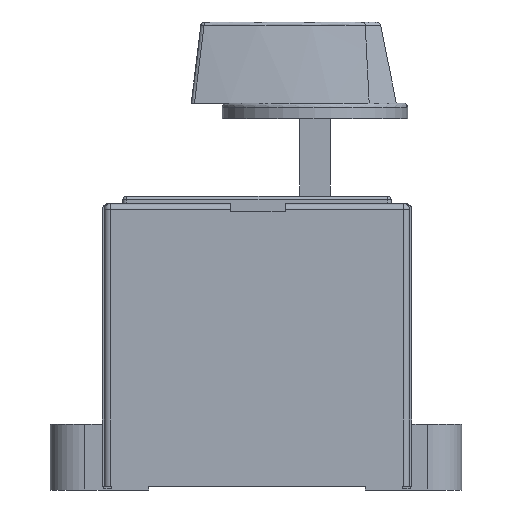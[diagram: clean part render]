
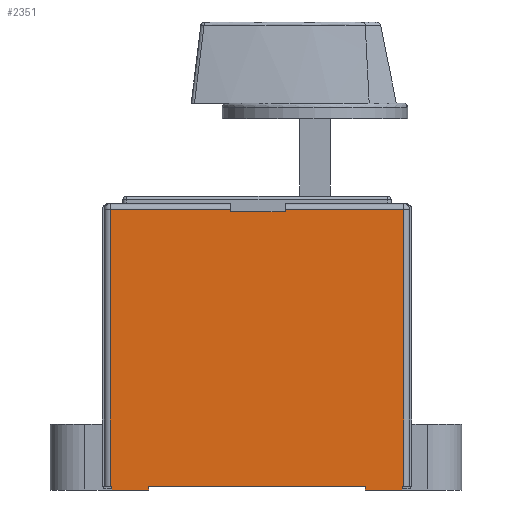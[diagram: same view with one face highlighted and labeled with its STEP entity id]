
A CAD part, left-side view. The second image highlights one B-rep face of the part: STEP entity #2351.
In plain terms, the highlighted planar face has unit normal (-1, 0, 0).
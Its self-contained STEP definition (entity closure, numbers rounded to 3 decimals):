
#273=PLANE('',#7907);
#747=LINE('',#11157,#1499);
#796=LINE('',#11274,#1548);
#798=LINE('',#11280,#1550);
#877=LINE('',#11629,#1629);
#894=LINE('',#11716,#1646);
#938=LINE('',#11830,#1690);
#943=LINE('',#11842,#1695);
#945=LINE('',#11845,#1697);
#951=LINE('',#11858,#1703);
#1120=LINE('',#12202,#1872);
#1126=LINE('',#12213,#1878);
#1127=LINE('',#12217,#1879);
#1128=LINE('',#12219,#1880);
#1129=LINE('',#12221,#1881);
#1130=LINE('',#12222,#1882);
#1131=LINE('',#12223,#1883);
#1499=VECTOR('',#8836,1.);
#1548=VECTOR('',#8921,1.);
#1550=VECTOR('',#8927,1.);
#1629=VECTOR('',#9244,1.);
#1646=VECTOR('',#9361,1.);
#1690=VECTOR('',#9479,1.);
#1695=VECTOR('',#9486,1.);
#1697=VECTOR('',#9490,1.);
#1703=VECTOR('',#9498,1.);
#1872=VECTOR('',#9797,1.);
#1878=VECTOR('',#9809,1.);
#1879=VECTOR('',#9814,1.);
#1880=VECTOR('',#9815,1.);
#1881=VECTOR('',#9816,1.);
#1882=VECTOR('',#9817,1.);
#1883=VECTOR('',#9818,1.);
#2351=ADVANCED_FACE('',(#2728),#273,.F.);
#2728=FACE_OUTER_BOUND('',#3177,.T.);
#3177=EDGE_LOOP('',(#4827,#4828,#4829,#4830,#4831,#4832,#4833,#4834,#4835,
#4836,#4837,#4838,#4839,#4840,#4841,#4842));
#4827=ORIENTED_EDGE('',*,*,#6939,.F.);
#4828=ORIENTED_EDGE('',*,*,#6682,.T.);
#4829=ORIENTED_EDGE('',*,*,#6484,.T.);
#4830=ORIENTED_EDGE('',*,*,#6428,.F.);
#4831=ORIENTED_EDGE('',*,*,#6487,.T.);
#4832=ORIENTED_EDGE('',*,*,#6639,.T.);
#4833=ORIENTED_EDGE('',*,*,#6941,.T.);
#4834=ORIENTED_EDGE('',*,*,#6942,.T.);
#4835=ORIENTED_EDGE('',*,*,#6943,.F.);
#4836=ORIENTED_EDGE('',*,*,#6738,.F.);
#4837=ORIENTED_EDGE('',*,*,#6743,.T.);
#4838=ORIENTED_EDGE('',*,*,#6944,.T.);
#4839=ORIENTED_EDGE('',*,*,#6751,.F.);
#4840=ORIENTED_EDGE('',*,*,#6745,.F.);
#4841=ORIENTED_EDGE('',*,*,#6933,.T.);
#4842=ORIENTED_EDGE('',*,*,#6945,.T.);
#5641=VERTEX_POINT('',#11156);
#5642=VERTEX_POINT('',#11158);
#5688=VERTEX_POINT('',#11275);
#5690=VERTEX_POINT('',#11281);
#5797=VERTEX_POINT('',#11624);
#5798=VERTEX_POINT('',#11628);
#5852=VERTEX_POINT('',#11831);
#5853=VERTEX_POINT('',#11832);
#5857=VERTEX_POINT('',#11841);
#5858=VERTEX_POINT('',#11846);
#5859=VERTEX_POINT('',#11847);
#5862=VERTEX_POINT('',#11855);
#5973=VERTEX_POINT('',#12201);
#5976=VERTEX_POINT('',#12214);
#5977=VERTEX_POINT('',#12218);
#5978=VERTEX_POINT('',#12220);
#6428=EDGE_CURVE('',#5641,#5642,#747,.T.);
#6484=EDGE_CURVE('',#5688,#5642,#796,.T.);
#6487=EDGE_CURVE('',#5641,#5690,#798,.T.);
#6639=EDGE_CURVE('',#5690,#5798,#877,.T.);
#6682=EDGE_CURVE('',#5797,#5688,#894,.T.);
#6738=EDGE_CURVE('',#5852,#5853,#938,.T.);
#6743=EDGE_CURVE('',#5852,#5857,#943,.T.);
#6745=EDGE_CURVE('',#5858,#5859,#945,.T.);
#6751=EDGE_CURVE('',#5859,#5862,#951,.T.);
#6933=EDGE_CURVE('',#5858,#5973,#1120,.T.);
#6939=EDGE_CURVE('',#5797,#5976,#1126,.T.);
#6941=EDGE_CURVE('',#5798,#5977,#1127,.T.);
#6942=EDGE_CURVE('',#5977,#5978,#1128,.T.);
#6943=EDGE_CURVE('',#5853,#5978,#1129,.T.);
#6944=EDGE_CURVE('',#5857,#5862,#1130,.T.);
#6945=EDGE_CURVE('',#5973,#5976,#1131,.T.);
#7907=AXIS2_PLACEMENT_3D('',#12224,#9819,#9820);
#8836=DIRECTION('',(0.,-1.,0.));
#8921=DIRECTION('',(0.,0.,-1.));
#8927=DIRECTION('',(0.,0.,1.));
#9244=DIRECTION('',(0.,1.,0.));
#9361=DIRECTION('',(0.,1.,0.));
#9479=DIRECTION('',(0.,1.,0.));
#9486=DIRECTION('',(0.,0.,1.));
#9490=DIRECTION('',(0.,1.,0.));
#9498=DIRECTION('',(0.,0.,1.));
#9797=DIRECTION('',(0.,0.,1.));
#9809=DIRECTION('',(0.,0.,-1.));
#9814=DIRECTION('',(0.,0.,-1.));
#9815=DIRECTION('',(0.,-1.,0.));
#9816=DIRECTION('',(0.,0.,1.));
#9817=DIRECTION('',(0.,-1.,0.));
#9818=DIRECTION('',(0.,-1.,0.));
#9819=DIRECTION('',(1.,0.,0.));
#9820=DIRECTION('',(0.,0.,-1.));
#11156=CARTESIAN_POINT('',(-69.,-17.985,67.));
#11157=CARTESIAN_POINT('',(-69.,12.765,67.));
#11158=CARTESIAN_POINT('',(-69.,-31.985,67.));
#11274=CARTESIAN_POINT('',(-69.,-31.985,69.1));
#11275=CARTESIAN_POINT('',(-69.,-31.985,67.6));
#11280=CARTESIAN_POINT('',(-69.,-17.985,69.1));
#11281=CARTESIAN_POINT('',(-69.,-17.985,67.6));
#11624=CARTESIAN_POINT('',(-69.,-62.735,67.6));
#11628=CARTESIAN_POINT('',(-69.,13.265,67.6));
#11629=CARTESIAN_POINT('',(-69.,13.265,67.6));
#11716=CARTESIAN_POINT('',(-69.,13.265,67.6));
#11830=CARTESIAN_POINT('',(-69.,3.265,-4.9));
#11831=CARTESIAN_POINT('',(-69.,3.265,-4.9));
#11832=CARTESIAN_POINT('',(-69.,12.765,-4.9));
#11841=CARTESIAN_POINT('',(-69.,3.265,-3.9));
#11842=CARTESIAN_POINT('',(-69.,3.265,-5.9));
#11845=CARTESIAN_POINT('',(-69.,-62.235,-4.9));
#11846=CARTESIAN_POINT('',(-69.,-62.235,-4.9));
#11847=CARTESIAN_POINT('',(-69.,-52.735,-4.9));
#11855=CARTESIAN_POINT('',(-69.,-52.735,-3.9));
#11858=CARTESIAN_POINT('',(-69.,-52.735,-5.9));
#12201=CARTESIAN_POINT('',(-69.,-62.235,-3.9));
#12202=CARTESIAN_POINT('',(-69.,-62.235,-5.9));
#12213=CARTESIAN_POINT('',(-69.,-62.735,69.1));
#12214=CARTESIAN_POINT('',(-69.,-62.735,-3.9));
#12217=CARTESIAN_POINT('',(-69.,13.265,69.1));
#12218=CARTESIAN_POINT('',(-69.,13.265,-3.9));
#12219=CARTESIAN_POINT('',(-69.,-62.235,-3.9));
#12220=CARTESIAN_POINT('',(-69.,12.765,-3.9));
#12221=CARTESIAN_POINT('',(-69.,12.765,-5.9));
#12222=CARTESIAN_POINT('',(-69.,-62.235,-3.9));
#12223=CARTESIAN_POINT('',(-69.,-62.235,-3.9));
#12224=CARTESIAN_POINT('',(-69.,-62.235,69.1));
